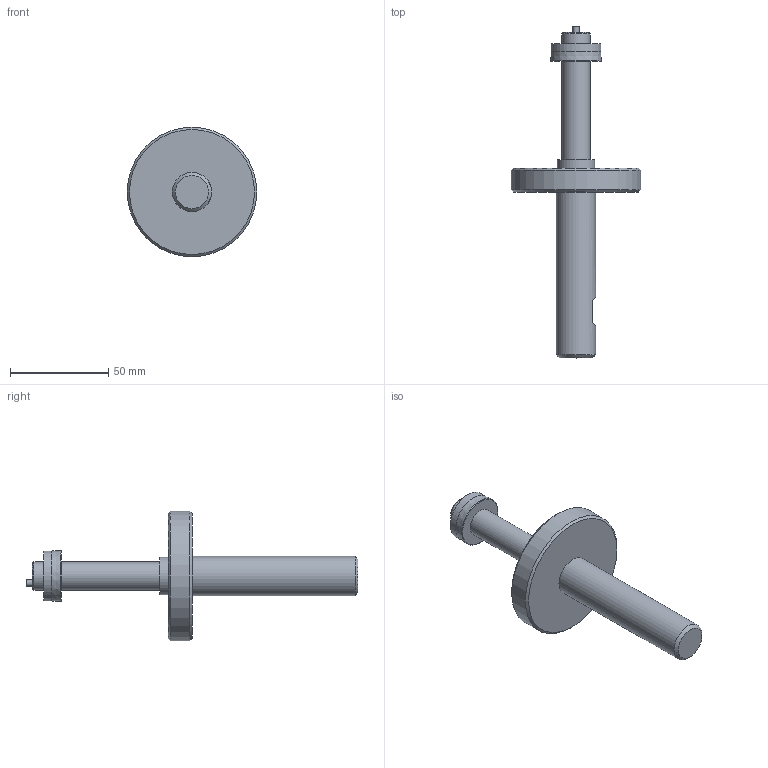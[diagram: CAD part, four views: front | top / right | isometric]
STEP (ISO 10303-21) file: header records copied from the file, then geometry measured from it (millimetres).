
FILE_DESCRIPTION (( 'STEP AP203' ), '1' );
FILE_NAME ('AF56-SIMPLE - AF56-14.50M-26.00M.step', '2025-01-22T13:32:14', ( '' ), ( '' ), 'SwSTEP 2.0', 'SolidWorks 2024', '' );
FILE_SCHEMA (( 'CONFIG_CONTROL_DESIGN' ));
Length unit declared in the file: inch
Products named in the file (1): AF56-SIMPLE - AF56-14.50M-26.00M
Bounding box: 66.04 x 169.29 x 66.04 mm (x, y, z)
Volume: 82770.8 mm3; surface area: 18587.3 mm2
Topology: 1 solids, 1 shells, 24 faces, 40 edges, 25 vertices
Faces by surface type: plane 11, cylinder 7, cone 5, torus 1
Full cylindrical faces by diameter (mm): 3.175 x1, 14.376 x2, 19.05 x1, 20 x1, 25.494 x1, 66.04 x1
Entity records: 569 total; most frequent: DIRECTION 94, CARTESIAN_POINT 81, ORIENTED_EDGE 52, AXIS2_PLACEMENT_3D 45, EDGE_LOOP 44, FACE_OUTER_BOUND 32, EDGE_CURVE 26, ADVANCED_FACE 24
